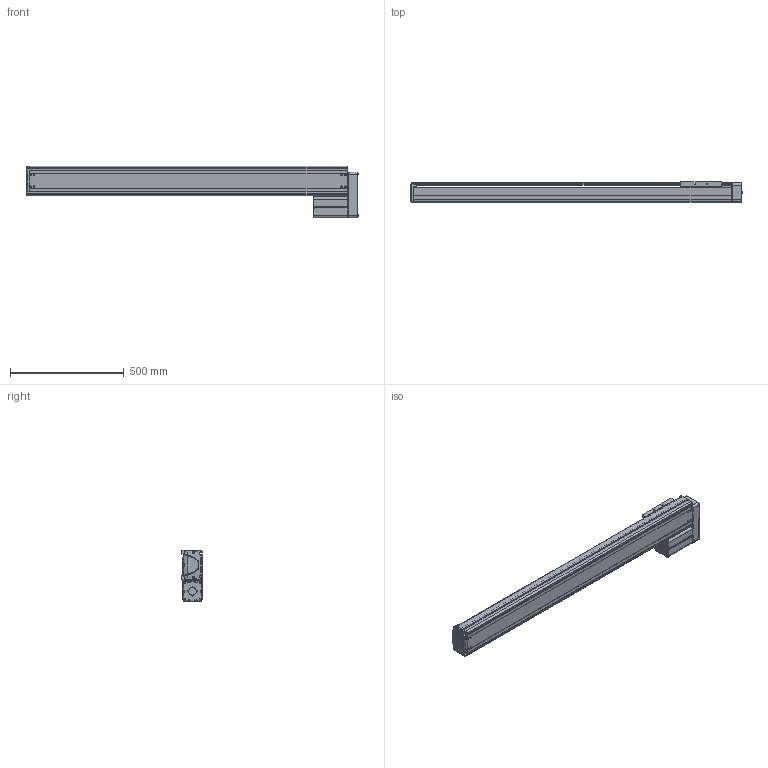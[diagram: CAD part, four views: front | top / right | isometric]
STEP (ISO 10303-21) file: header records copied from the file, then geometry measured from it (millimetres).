
FILE_DESCRIPTION((''),'2;1');
FILE_NAME('BE30E-UL-L_N-B5_IGS_PRT','2017-06-17T',(' '),(''),'PRO/ENGINEER BY PARAMETRIC TECHNOLOGY CORPORATION, 2015030','PRO/ENGINEER BY PARAMETRIC TECHNOLOGY CORPORATION, 2015030','');
FILE_SCHEMA(('CONFIG_CONTROL_DESIGN'));
Length unit declared in the file: millimetre
Products named in the file (1): BE30E-UL-L_N-B5_IGS_PRT
Bounding box: 1461.9 x 89.8 x 227 mm (x, y, z)
Volume: 4758927.4 mm3; surface area: 1977221.1 mm2
Topology: 2 solids, 139 shells, 2115 faces, 5725 edges, 3727 vertices
Faces by surface type: plane 1010, cylinder 915, cone 101, torus 37, bspline 28, sphere 24
Entity records: 68823 total; most frequent: CARTESIAN_POINT 14672, DIRECTION 11443, ORIENTED_EDGE 10852, EDGE_CURVE 5687, AXIS2_PLACEMENT_3D 4062, VERTEX_POINT 3727, VECTOR 3319, LINE 3319
